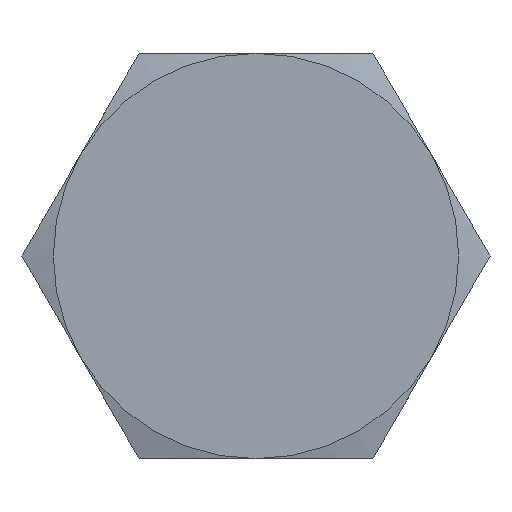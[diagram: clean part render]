
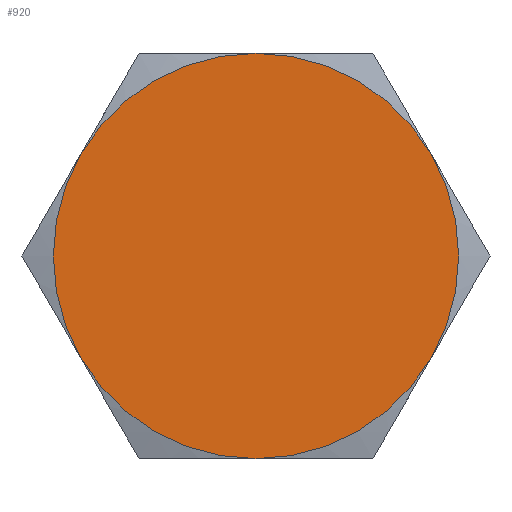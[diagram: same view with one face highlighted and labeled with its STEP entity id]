
A CAD part, left-side view. The second image highlights one B-rep face of the part: STEP entity #920.
In plain terms, the highlighted planar face has unit normal (-1, 0, 0).
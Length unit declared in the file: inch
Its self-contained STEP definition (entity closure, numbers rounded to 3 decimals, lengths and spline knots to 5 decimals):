
#176=PLANE('',#1031);
#232=FACE_OUTER_BOUND('',#323,.T.);
#323=EDGE_LOOP('',(#512,#513,#514,#515,#516,#517));
#512=ORIENTED_EDGE('',*,*,#677,.T.);
#513=ORIENTED_EDGE('',*,*,#674,.T.);
#514=ORIENTED_EDGE('',*,*,#671,.T.);
#515=ORIENTED_EDGE('',*,*,#669,.T.);
#516=ORIENTED_EDGE('',*,*,#666,.T.);
#517=ORIENTED_EDGE('',*,*,#663,.T.);
#663=EDGE_CURVE('',#762,#763,#843,.T.);
#666=EDGE_CURVE('',#765,#762,#844,.T.);
#669=EDGE_CURVE('',#767,#765,#845,.T.);
#671=EDGE_CURVE('',#769,#767,#846,.T.);
#674=EDGE_CURVE('',#771,#769,#847,.T.);
#677=EDGE_CURVE('',#763,#771,#848,.T.);
#762=VERTEX_POINT('',#1502);
#763=VERTEX_POINT('',#1506);
#765=VERTEX_POINT('',#1513);
#767=VERTEX_POINT('',#1523);
#769=VERTEX_POINT('',#1536);
#771=VERTEX_POINT('',#1546);
#843=CIRCLE('',#1014,0.8125);
#844=CIRCLE('',#1016,0.8125);
#845=CIRCLE('',#1018,0.8125);
#846=CIRCLE('',#1020,0.8125);
#847=CIRCLE('',#1022,0.8125);
#848=CIRCLE('',#1024,0.8125);
#920=ADVANCED_FACE('',(#232),#176,.F.);
#1014=AXIS2_PLACEMENT_3D('',#1510,#1199,#1200);
#1016=AXIS2_PLACEMENT_3D('',#1520,#1203,#1204);
#1018=AXIS2_PLACEMENT_3D('',#1530,#1207,#1208);
#1020=AXIS2_PLACEMENT_3D('',#1537,#1211,#1212);
#1022=AXIS2_PLACEMENT_3D('',#1547,#1215,#1216);
#1024=AXIS2_PLACEMENT_3D('',#1556,#1219,#1220);
#1031=AXIS2_PLACEMENT_3D('',#1572,#1239,#1240);
#1199=DIRECTION('center_axis',(-1.,0.,0.));
#1200=DIRECTION('ref_axis',(0.,0.,-1.));
#1203=DIRECTION('center_axis',(-1.,0.,0.));
#1204=DIRECTION('ref_axis',(0.,0.,-1.));
#1207=DIRECTION('center_axis',(-1.,0.,0.));
#1208=DIRECTION('ref_axis',(0.,0.,-1.));
#1211=DIRECTION('center_axis',(-1.,0.,0.));
#1212=DIRECTION('ref_axis',(0.,0.,-1.));
#1215=DIRECTION('center_axis',(-1.,0.,0.));
#1216=DIRECTION('ref_axis',(0.,0.,-1.));
#1219=DIRECTION('center_axis',(-1.,0.,0.));
#1220=DIRECTION('ref_axis',(0.,0.,-1.));
#1239=DIRECTION('center_axis',(1.,0.,0.));
#1240=DIRECTION('ref_axis',(0.,0.,-1.));
#1502=CARTESIAN_POINT('',(-0.5,-0.70365,0.40625));
#1506=CARTESIAN_POINT('',(-0.5,0.,0.8125));
#1510=CARTESIAN_POINT('Origin',(-0.5,0.,0.));
#1513=CARTESIAN_POINT('',(-0.5,-0.70365,-0.40625));
#1520=CARTESIAN_POINT('Origin',(-0.5,0.,0.));
#1523=CARTESIAN_POINT('',(-0.5,0.,-0.8125));
#1530=CARTESIAN_POINT('Origin',(-0.5,0.,0.));
#1536=CARTESIAN_POINT('',(-0.5,0.70365,-0.40625));
#1537=CARTESIAN_POINT('Origin',(-0.5,0.,0.));
#1546=CARTESIAN_POINT('',(-0.5,0.70365,0.40625));
#1547=CARTESIAN_POINT('Origin',(-0.5,0.,0.));
#1556=CARTESIAN_POINT('Origin',(-0.5,0.,0.));
#1572=CARTESIAN_POINT('Origin',(-0.5,0.,0.));
